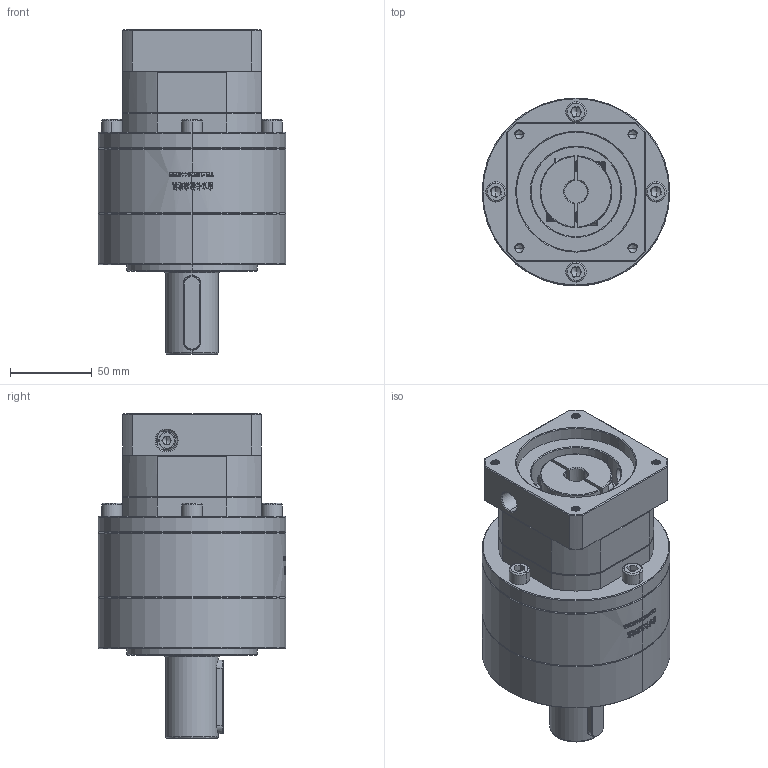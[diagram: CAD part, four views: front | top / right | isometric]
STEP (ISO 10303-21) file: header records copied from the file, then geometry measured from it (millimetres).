
FILE_DESCRIPTION (( 'STEP AP214' ), '1' );
FILE_NAME ('ZE120A-D32-L2-14-73-69.5X69.5-M6.step', '2023-03-13T06:51:09', ( '' ), ( '' ), 'SwSTEP 2.0', 'SolidWorks 2016', '' );
FILE_SCHEMA (( 'AUTOMOTIVE_DESIGN' ));
Length unit declared in the file: millimetre
Products named in the file (1): ZE120A-D32-L2-14-73-69.5X69.5-M6
Bounding box: 115 x 115 x 199 mm (x, y, z)
Volume: 1231887.1 mm3; surface area: 122887.1 mm2
Topology: 5 solids, 6 shells, 2021 faces, 5327 edges, 3397 vertices
Faces by surface type: plane 866, cylinder 500, bspline 333, cone 307, torus 15
Entity records: 116802 total; most frequent: CARTESIAN_POINT 49274, ORIENTED_EDGE 10578, DIRECTION 7912, EDGE_CURVE 5289, VERTEX_POINT 3397, VECTOR 2802, LINE 2802, AXIS2_PLACEMENT_3D 2555
